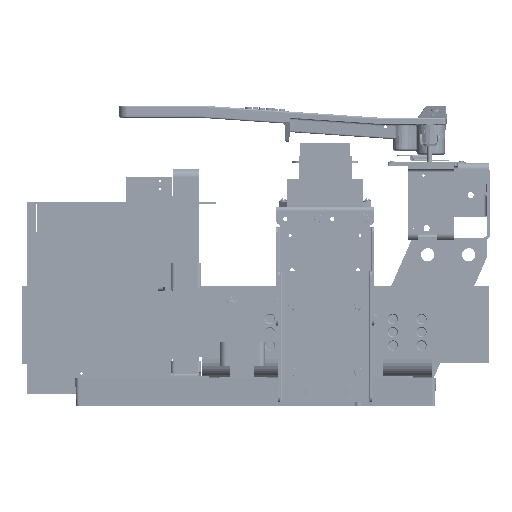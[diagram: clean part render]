
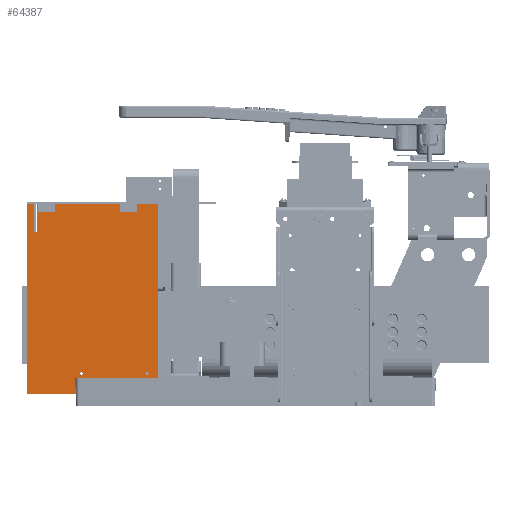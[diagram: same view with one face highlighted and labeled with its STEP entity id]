
A CAD part, left-side view. The second image highlights one B-rep face of the part: STEP entity #64387.
In plain terms, the highlighted planar face has unit normal (-1, 0, 0) as drawn and (0, 0, -1) by its records, which use the part's own axes.
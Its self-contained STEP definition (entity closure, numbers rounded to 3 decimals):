
#3417=FACE_BOUND('',#13862,.T.);
#3418=FACE_BOUND('',#13863,.T.);
#3419=FACE_BOUND('',#13864,.T.);
#3420=FACE_BOUND('',#13865,.T.);
#5437=CIRCLE('',#71192,0.097);
#5439=CIRCLE('',#71195,0.097);
#5441=CIRCLE('',#71198,0.097);
#5443=CIRCLE('',#71201,0.097);
#9740=FACE_OUTER_BOUND('',#13861,.T.);
#13861=EDGE_LOOP('',(#50720,#50721,#50722,#50723,#50724,#50725,#50726,#50727,
#50728,#50729,#50730,#50731));
#13862=EDGE_LOOP('',(#50732));
#13863=EDGE_LOOP('',(#50733));
#13864=EDGE_LOOP('',(#50734));
#13865=EDGE_LOOP('',(#50735));
#18728=LINE('',#104668,#24038);
#18732=LINE('',#104676,#24042);
#18735=LINE('',#104682,#24045);
#18738=LINE('',#104688,#24048);
#18741=LINE('',#104694,#24051);
#18744=LINE('',#104700,#24054);
#18747=LINE('',#104706,#24057);
#18750=LINE('',#104712,#24060);
#18753=LINE('',#104718,#24063);
#18756=LINE('',#104724,#24066);
#18759=LINE('',#104730,#24069);
#18762=LINE('',#104735,#24072);
#24038=VECTOR('',#84016,0.394);
#24042=VECTOR('',#84022,0.394);
#24045=VECTOR('',#84027,0.394);
#24048=VECTOR('',#84032,0.394);
#24051=VECTOR('',#84037,0.394);
#24054=VECTOR('',#84042,0.394);
#24057=VECTOR('',#84047,0.394);
#24060=VECTOR('',#84052,0.394);
#24063=VECTOR('',#84057,0.394);
#24066=VECTOR('',#84062,0.394);
#24069=VECTOR('',#84067,0.394);
#24072=VECTOR('',#84072,0.394);
#29706=VERTEX_POINT('',#104642);
#29708=VERTEX_POINT('',#104648);
#29710=VERTEX_POINT('',#104654);
#29712=VERTEX_POINT('',#104660);
#29714=VERTEX_POINT('',#104666);
#29715=VERTEX_POINT('',#104667);
#29718=VERTEX_POINT('',#104675);
#29720=VERTEX_POINT('',#104681);
#29722=VERTEX_POINT('',#104687);
#29724=VERTEX_POINT('',#104693);
#29726=VERTEX_POINT('',#104699);
#29728=VERTEX_POINT('',#104705);
#29730=VERTEX_POINT('',#104711);
#29732=VERTEX_POINT('',#104717);
#29734=VERTEX_POINT('',#104723);
#29736=VERTEX_POINT('',#104729);
#37142=EDGE_CURVE('',#29706,#29706,#5437,.T.);
#37145=EDGE_CURVE('',#29708,#29708,#5439,.T.);
#37148=EDGE_CURVE('',#29710,#29710,#5441,.T.);
#37151=EDGE_CURVE('',#29712,#29712,#5443,.T.);
#37154=EDGE_CURVE('',#29714,#29715,#18728,.T.);
#37158=EDGE_CURVE('',#29718,#29714,#18732,.T.);
#37161=EDGE_CURVE('',#29720,#29718,#18735,.T.);
#37164=EDGE_CURVE('',#29722,#29720,#18738,.T.);
#37167=EDGE_CURVE('',#29724,#29722,#18741,.T.);
#37170=EDGE_CURVE('',#29726,#29724,#18744,.T.);
#37173=EDGE_CURVE('',#29728,#29726,#18747,.T.);
#37176=EDGE_CURVE('',#29730,#29728,#18750,.T.);
#37179=EDGE_CURVE('',#29732,#29730,#18753,.T.);
#37182=EDGE_CURVE('',#29734,#29732,#18756,.T.);
#37185=EDGE_CURVE('',#29736,#29734,#18759,.T.);
#37188=EDGE_CURVE('',#29715,#29736,#18762,.T.);
#50720=ORIENTED_EDGE('',*,*,#37188,.F.);
#50721=ORIENTED_EDGE('',*,*,#37154,.F.);
#50722=ORIENTED_EDGE('',*,*,#37158,.F.);
#50723=ORIENTED_EDGE('',*,*,#37161,.F.);
#50724=ORIENTED_EDGE('',*,*,#37164,.F.);
#50725=ORIENTED_EDGE('',*,*,#37167,.F.);
#50726=ORIENTED_EDGE('',*,*,#37170,.F.);
#50727=ORIENTED_EDGE('',*,*,#37173,.F.);
#50728=ORIENTED_EDGE('',*,*,#37176,.F.);
#50729=ORIENTED_EDGE('',*,*,#37179,.F.);
#50730=ORIENTED_EDGE('',*,*,#37182,.F.);
#50731=ORIENTED_EDGE('',*,*,#37185,.F.);
#50732=ORIENTED_EDGE('',*,*,#37142,.T.);
#50733=ORIENTED_EDGE('',*,*,#37145,.T.);
#50734=ORIENTED_EDGE('',*,*,#37148,.T.);
#50735=ORIENTED_EDGE('',*,*,#37151,.T.);
#61697=PLANE('',#71216);
#64387=ADVANCED_FACE('',(#9740,#3417,#3418,#3419,#3420),#61697,.F.);
#71192=AXIS2_PLACEMENT_3D('',#104643,#83988,#83989);
#71195=AXIS2_PLACEMENT_3D('',#104649,#83995,#83996);
#71198=AXIS2_PLACEMENT_3D('',#104655,#84002,#84003);
#71201=AXIS2_PLACEMENT_3D('',#104661,#84009,#84010);
#71216=AXIS2_PLACEMENT_3D('',#104738,#84076,#84077);
#83988=DIRECTION('center_axis',(0.,0.,1.));
#83989=DIRECTION('ref_axis',(-1.,0.,0.));
#83995=DIRECTION('center_axis',(0.,0.,1.));
#83996=DIRECTION('ref_axis',(-1.,0.,0.));
#84002=DIRECTION('center_axis',(0.,0.,1.));
#84003=DIRECTION('ref_axis',(-1.,0.,0.));
#84009=DIRECTION('center_axis',(0.,0.,1.));
#84010=DIRECTION('ref_axis',(-1.,0.,0.));
#84016=DIRECTION('',(1.,0.,0.));
#84022=DIRECTION('',(0.,1.,0.));
#84027=DIRECTION('',(1.,0.,0.));
#84032=DIRECTION('',(0.,-1.,0.));
#84037=DIRECTION('',(-1.,0.,0.));
#84042=DIRECTION('',(0.,-1.,0.));
#84047=DIRECTION('',(1.,0.,0.));
#84052=DIRECTION('',(0.,-1.,0.));
#84057=DIRECTION('',(-1.,0.,0.));
#84062=DIRECTION('',(0.,1.,0.));
#84067=DIRECTION('',(1.,0.,0.));
#84072=DIRECTION('',(0.,-1.,0.));
#84076=DIRECTION('center_axis',(0.,0.,1.));
#84077=DIRECTION('ref_axis',(1.,0.,0.));
#104642=CARTESIAN_POINT('',(0.347,2.,0.));
#104643=CARTESIAN_POINT('Origin',(0.25,2.,0.));
#104648=CARTESIAN_POINT('',(0.347,7.,0.));
#104649=CARTESIAN_POINT('Origin',(0.25,7.,0.));
#104654=CARTESIAN_POINT('',(10.472,0.688,0.));
#104655=CARTESIAN_POINT('Origin',(10.375,0.688,0.));
#104660=CARTESIAN_POINT('',(10.472,4.688,0.));
#104661=CARTESIAN_POINT('Origin',(10.375,4.688,0.));
#104666=CARTESIAN_POINT('',(10.625,5.094,0.));
#104667=CARTESIAN_POINT('',(11.156,5.094,0.));
#104668=CARTESIAN_POINT('',(10.625,5.094,0.));
#104675=CARTESIAN_POINT('',(10.625,0.,0.));
#104676=CARTESIAN_POINT('',(10.625,0.,0.));
#104681=CARTESIAN_POINT('',(0.,0.,0.));
#104682=CARTESIAN_POINT('',(0.,0.,0.));
#104687=CARTESIAN_POINT('',(0.,7.422,0.));
#104688=CARTESIAN_POINT('',(0.,7.422,0.));
#104693=CARTESIAN_POINT('',(1.75,7.422,0.));
#104694=CARTESIAN_POINT('',(1.75,7.422,0.));
#104699=CARTESIAN_POINT('',(1.75,7.578,0.));
#104700=CARTESIAN_POINT('',(1.75,7.578,0.));
#104705=CARTESIAN_POINT('',(0.,7.578,0.));
#104706=CARTESIAN_POINT('',(0.,7.578,0.));
#104711=CARTESIAN_POINT('',(0.,8.,0.));
#104712=CARTESIAN_POINT('',(0.,8.,0.));
#104717=CARTESIAN_POINT('',(11.625,8.,0.));
#104718=CARTESIAN_POINT('',(11.625,8.,0.));
#104723=CARTESIAN_POINT('',(11.625,4.719,0.));
#104724=CARTESIAN_POINT('',(11.625,4.719,0.));
#104729=CARTESIAN_POINT('',(11.156,4.719,0.));
#104730=CARTESIAN_POINT('',(11.156,4.719,0.));
#104735=CARTESIAN_POINT('',(11.156,5.094,0.));
#104738=CARTESIAN_POINT('Origin',(5.401,4.41,0.));
